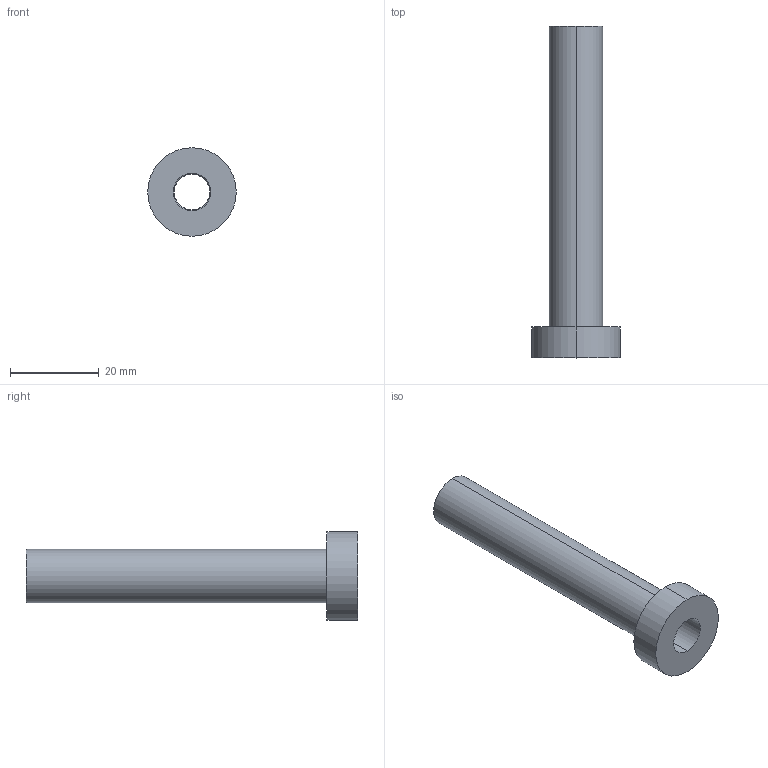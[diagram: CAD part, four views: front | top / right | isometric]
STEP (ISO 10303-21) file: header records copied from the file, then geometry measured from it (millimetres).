
FILE_DESCRIPTION (( 'STEP AP214' ), '1' );
FILE_NAME ('ET-ETN-8x75.STEP', '2019-12-16T17:08:15', ( 'August' ), ( '' ), 'SwSTEP 2.0', 'SolidWorks 2018', '' );
FILE_SCHEMA (( 'AUTOMOTIVE_DESIGN' ));
Length unit declared in the file: millimetre
Products named in the file (1): ET-ETN-8x75
Bounding box: 20 x 75 x 20 mm (x, y, z)
Volume: 5926.3 mm3; surface area: 5459.2 mm2
Topology: 1 solids, 1 shells, 13 faces, 26 edges, 16 vertices
Faces by surface type: cylinder 8, plane 3, cone 2
Entity records: 382 total; most frequent: DIRECTION 70, CARTESIAN_POINT 56, ORIENTED_EDGE 52, AXIS2_PLACEMENT_3D 30, EDGE_CURVE 26, VERTEX_POINT 16, EDGE_LOOP 16, CIRCLE 16
